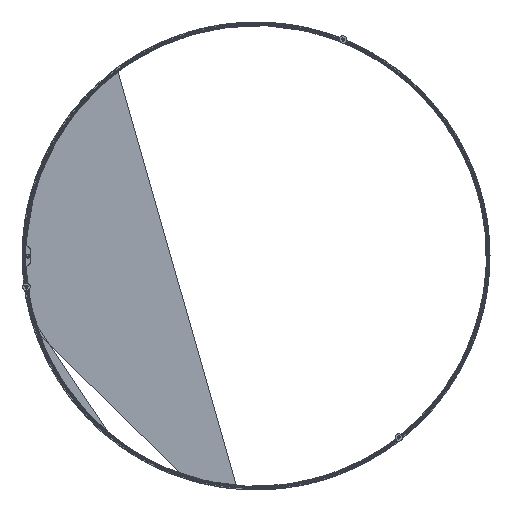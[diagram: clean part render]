
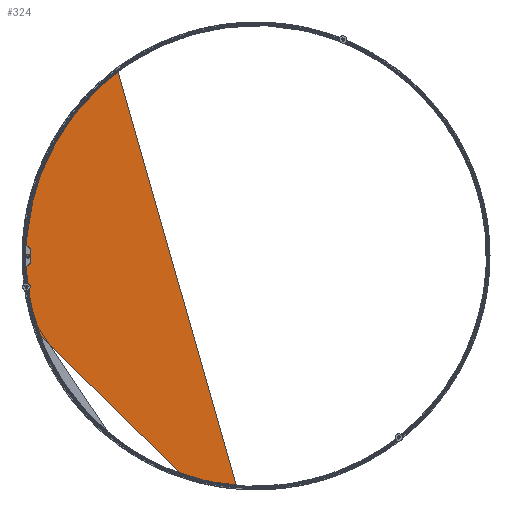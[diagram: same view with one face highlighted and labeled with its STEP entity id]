
A CAD part, top view. The second image highlights one B-rep face of the part: STEP entity #324.
In plain terms, the highlighted planar face has unit normal (0, 0, 1) as drawn and (0, 1, 0) by its records, which use the part's own axes.
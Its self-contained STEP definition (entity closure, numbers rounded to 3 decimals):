
#324=ADVANCED_FACE('',(#745),#6223,.T.);
#745=FACE_OUTER_BOUND('',#1179,.T.);
#1179=EDGE_LOOP('',(#2251,#2252,#2253,#2254,#2255,#2256,#2257,#2258));
#2251=ORIENTED_EDGE('',*,*,#3869,.F.);
#2252=ORIENTED_EDGE('',*,*,#3966,.T.);
#2253=ORIENTED_EDGE('',*,*,#3964,.T.);
#2254=ORIENTED_EDGE('',*,*,#3874,.T.);
#2255=ORIENTED_EDGE('',*,*,#3870,.T.);
#2256=ORIENTED_EDGE('',*,*,#3967,.T.);
#2257=ORIENTED_EDGE('',*,*,#3968,.T.);
#2258=ORIENTED_EDGE('',*,*,#3864,.F.);
#3864=EDGE_CURVE('',#5825,#5826,#5231,.T.);
#3869=EDGE_CURVE('',#5828,#5825,#5236,.T.);
#3870=EDGE_CURVE('',#5829,#5832,#5237,.T.);
#3874=EDGE_CURVE('',#5833,#5829,#5241,.T.);
#3964=EDGE_CURVE('',#5881,#5833,#5302,.T.);
#3966=EDGE_CURVE('',#5828,#5881,#4700,.T.);
#3967=EDGE_CURVE('',#5832,#5882,#4701,.T.);
#3968=EDGE_CURVE('',#5882,#5826,#5304,.T.);
#4700=B_SPLINE_CURVE_WITH_KNOTS('',1,(#17193,#17194),.UNSPECIFIED.,.F.,
 .F.,(2,2),(0.,0.6),.UNSPECIFIED.);
#4701=B_SPLINE_CURVE_WITH_KNOTS('',1,(#17195,#17196),.UNSPECIFIED.,.F.,
 .F.,(2,2),(0.,0.6),.UNSPECIFIED.);
#5231=(
BOUNDED_CURVE()
B_SPLINE_CURVE(2,(#16822,#16823,#16824,#16825,#16826),.UNSPECIFIED.,.F.,
 .F.)
B_SPLINE_CURVE_WITH_KNOTS((3,2,3),(0.,948.29,1896.579),
 .UNSPECIFIED.)
CURVE()
GEOMETRIC_REPRESENTATION_ITEM()
RATIONAL_B_SPLINE_CURVE((1.,0.707,1.,0.707,1.))
REPRESENTATION_ITEM('')
);
#5236=(
BOUNDED_CURVE()
B_SPLINE_CURVE(2,(#16839,#16840,#16841),.UNSPECIFIED.,.F.,.F.)
B_SPLINE_CURVE_WITH_KNOTS((3,3),(2845.08,3793.159),
 .UNSPECIFIED.)
CURVE()
GEOMETRIC_REPRESENTATION_ITEM()
RATIONAL_B_SPLINE_CURVE((1.,0.707,1.))
REPRESENTATION_ITEM('')
);
#5237=(
BOUNDED_CURVE()
B_SPLINE_CURVE(2,(#16842,#16843,#16844),.UNSPECIFIED.,.F.,.F.)
B_SPLINE_CURVE_WITH_KNOTS((3,3),(0.,949.232),.UNSPECIFIED.)
CURVE()
GEOMETRIC_REPRESENTATION_ITEM()
RATIONAL_B_SPLINE_CURVE((1.,0.707,1.))
REPRESENTATION_ITEM('')
);
#5241=(
BOUNDED_CURVE()
B_SPLINE_CURVE(2,(#16854,#16855,#16856,#16857,#16858),.UNSPECIFIED.,.F.,
 .F.)
B_SPLINE_CURVE_WITH_KNOTS((3,2,3),(-1898.464,-949.232,
0.),.UNSPECIFIED.)
CURVE()
GEOMETRIC_REPRESENTATION_ITEM()
RATIONAL_B_SPLINE_CURVE((1.,0.707,1.,0.707,1.))
REPRESENTATION_ITEM('')
);
#5302=(
BOUNDED_CURVE()
B_SPLINE_CURVE(2,(#17187,#17188,#17189),.UNSPECIFIED.,.F.,.F.)
B_SPLINE_CURVE_WITH_KNOTS((3,3),(0.,949.021),.UNSPECIFIED.)
CURVE()
GEOMETRIC_REPRESENTATION_ITEM()
RATIONAL_B_SPLINE_CURVE((1.,0.707,1.))
REPRESENTATION_ITEM('')
);
#5304=(
BOUNDED_CURVE()
B_SPLINE_CURVE(2,(#17197,#17198,#17199),.UNSPECIFIED.,.F.,.F.)
B_SPLINE_CURVE_WITH_KNOTS((3,3),(-948.29,0.),.UNSPECIFIED.)
CURVE()
GEOMETRIC_REPRESENTATION_ITEM()
RATIONAL_B_SPLINE_CURVE((1.,0.707,1.))
REPRESENTATION_ITEM('')
);
#5825=VERTEX_POINT('',#16314);
#5826=VERTEX_POINT('',#16315);
#5828=VERTEX_POINT('',#16317);
#5829=VERTEX_POINT('',#16318);
#5832=VERTEX_POINT('',#16321);
#5833=VERTEX_POINT('',#16322);
#5881=VERTEX_POINT('',#16370);
#5882=VERTEX_POINT('',#16371);
#6223=PLANE('',#6826);
#6826=AXIS2_PLACEMENT_3D('',#15070,#6979,$);
#6979=DIRECTION('',(0.,1.,0.));
#15070=CARTESIAN_POINT('',(-725.16,-6.5,-725.16));
#16314=CARTESIAN_POINT('',(0.,-6.5,603.7));
#16315=CARTESIAN_POINT('',(0.,-6.5,-603.7));
#16317=CARTESIAN_POINT('',(-603.7,-6.5,0.211));
#16318=CARTESIAN_POINT('',(0.,-6.5,-604.3));
#16321=CARTESIAN_POINT('',(-604.3,-6.5,0.));
#16322=CARTESIAN_POINT('',(0.,-6.5,604.3));
#16370=CARTESIAN_POINT('',(-604.3,-6.5,0.211));
#16371=CARTESIAN_POINT('',(-603.7,-6.5,0.));
#16822=CARTESIAN_POINT('',(0.,-6.5,603.7));
#16823=CARTESIAN_POINT('',(603.7,-6.5,603.7));
#16824=CARTESIAN_POINT('',(603.7,-6.5,0.));
#16825=CARTESIAN_POINT('',(603.7,-6.5,-603.7));
#16826=CARTESIAN_POINT('',(0.,-6.5,-603.7));
#16839=CARTESIAN_POINT('',(-603.7,-6.5,0.211));
#16840=CARTESIAN_POINT('',(-603.489,-6.5,603.7));
#16841=CARTESIAN_POINT('',(0.,-6.5,603.7));
#16842=CARTESIAN_POINT('',(0.,-6.5,-604.3));
#16843=CARTESIAN_POINT('',(-604.3,-6.5,-604.3));
#16844=CARTESIAN_POINT('',(-604.3,-6.5,0.));
#16854=CARTESIAN_POINT('',(0.,-6.5,604.3));
#16855=CARTESIAN_POINT('',(604.3,-6.5,604.3));
#16856=CARTESIAN_POINT('',(604.3,-6.5,0.));
#16857=CARTESIAN_POINT('',(604.3,-6.5,-604.3));
#16858=CARTESIAN_POINT('',(0.,-6.5,-604.3));
#17187=CARTESIAN_POINT('',(-604.3,-6.5,0.211));
#17188=CARTESIAN_POINT('',(-604.089,-6.5,604.3));
#17189=CARTESIAN_POINT('',(0.,-6.5,604.3));
#17193=CARTESIAN_POINT('',(-603.7,-6.5,0.211));
#17194=CARTESIAN_POINT('',(-604.3,-6.5,0.211));
#17195=CARTESIAN_POINT('',(-604.3,-6.5,0.));
#17196=CARTESIAN_POINT('',(-603.7,-6.5,0.));
#17197=CARTESIAN_POINT('',(-603.7,-6.5,0.));
#17198=CARTESIAN_POINT('',(-603.7,-6.5,-603.7));
#17199=CARTESIAN_POINT('',(0.,-6.5,-603.7));
